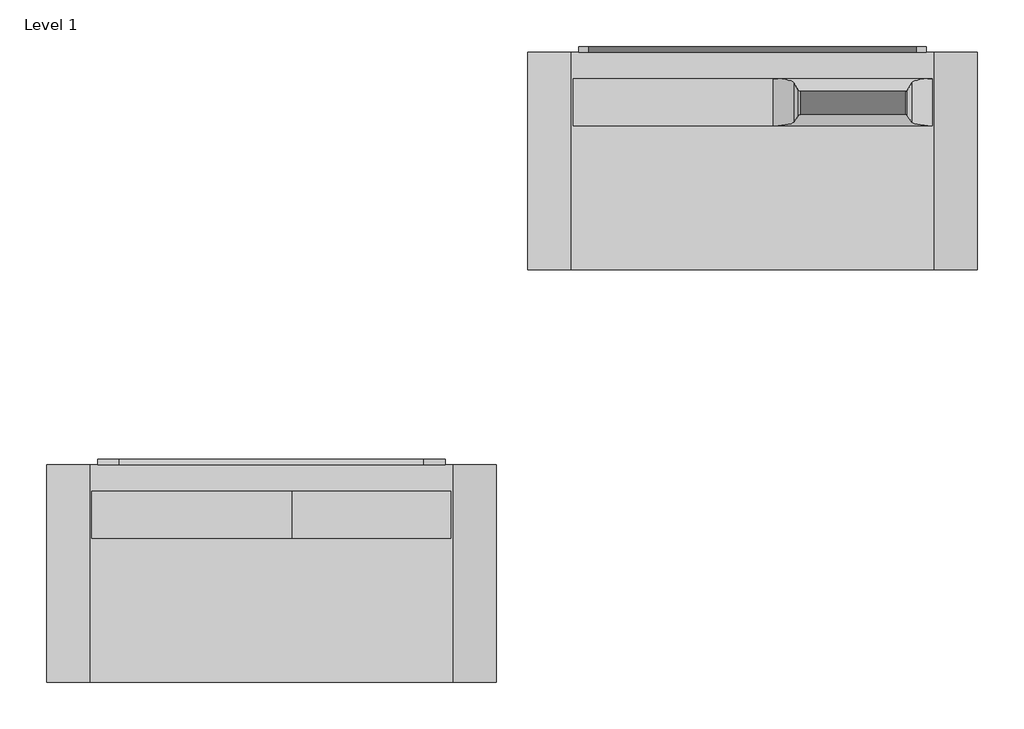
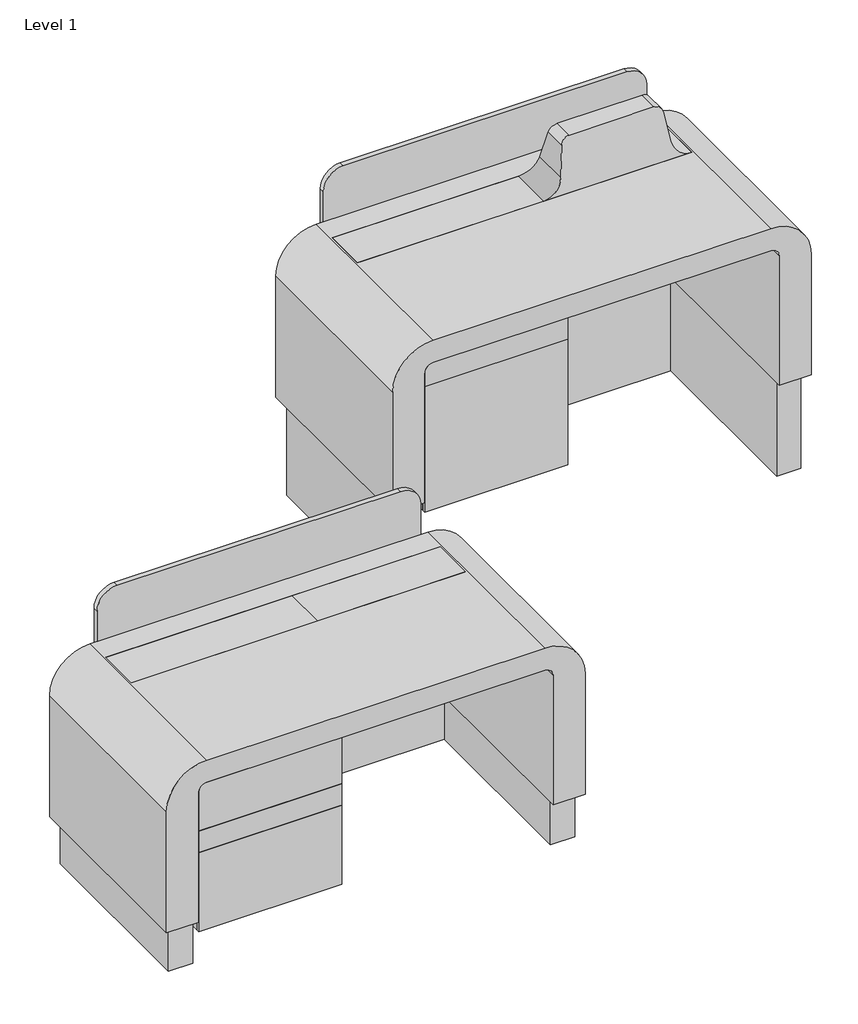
# One storey: 2 electric appliances.
"""IFC4 building model written with IfcOpenShell, lengths in millimetres."""

from ifc_helpers import new_model, si_unit, origin, place, context, project, spatial, transform, mapped, element, save
from components import lectern_height_adjustable_middle_atlantic_l7_series_09f4e8fb, lectern_height_adjustable_middle_atlantic_l7_series_439c3b23

model = new_model("IFC4")

# Units and contexts
model_context = context("Model", 3, world=origin())
ifc_project = project(units=[si_unit("LENGTHUNIT", "METRE", prefix="MILLI")], contexts=[model_context])

# Site, building, storey
site = spatial("IfcSite", under=ifc_project)
building = spatial("IfcBuilding", under=site)
storey = spatial("IfcBuildingStorey", under=building, Name="Level 1", Elevation=0.0)

# Electric appliances
placement = place(None, origin())
lectern_height_adjustable_middle_atlantic_l7_series_shape = lectern_height_adjustable_middle_atlantic_l7_series_09f4e8fb(model_context)
element("IfcElectricAppliance", 1, ObjectType="Lectern-Height_Adjustable-Middle_Atlantic-L7_Series : Glamour Cherry", at=placement, inside=storey, context=model_context, shape_type="MappedRepresentation", body=[
    mapped(lectern_height_adjustable_middle_atlantic_l7_series_shape, transform((-8263.2351846, -6093.7748284, 0.0), x_axis=(1.0, 0.0, 0.0), y_axis=(0.0, 1.0, 0.0), z_axis=(0.0, 0.0, 1.0))),
])
lectern_height_adjustable_middle_atlantic_l7_series_2_shape = lectern_height_adjustable_middle_atlantic_l7_series_439c3b23(model_context)
element("IfcElectricAppliance", 2, ObjectType="Lectern-Height_Adjustable-Middle_Atlantic-L7_Series : Montana Walnut", at=placement, inside=storey, context=model_context, shape_type="MappedRepresentation", body=[
    mapped(lectern_height_adjustable_middle_atlantic_l7_series_2_shape, transform((-6575.6764074, -4646.8074441, 0.0), x_axis=(1.0, 0.0, 0.0), y_axis=(0.0, 1.0, 0.0), z_axis=(0.0, 0.0, 1.0))),
])

save(model, "model.ifc")
